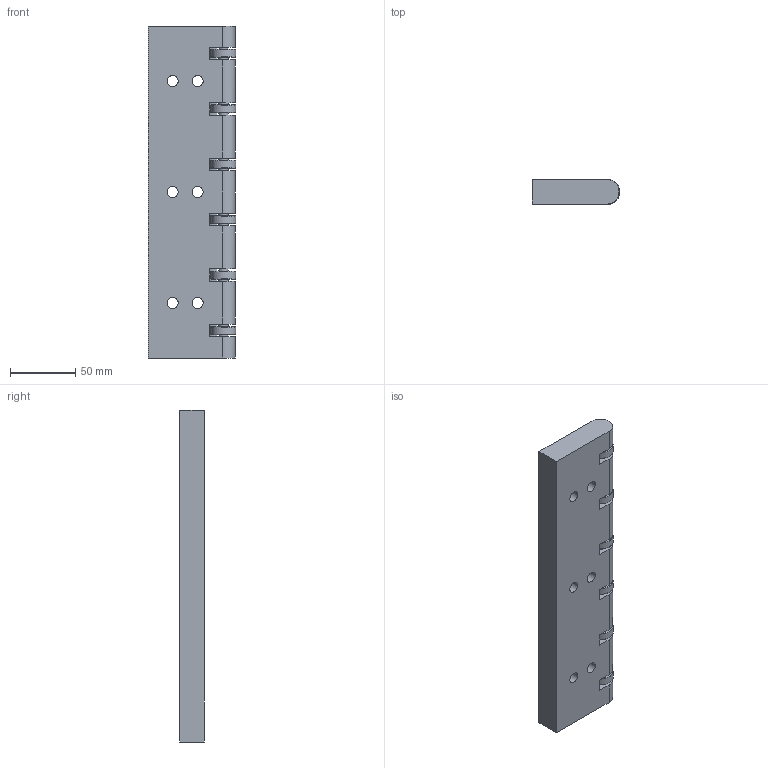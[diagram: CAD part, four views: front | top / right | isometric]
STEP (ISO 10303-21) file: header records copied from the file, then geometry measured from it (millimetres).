
FILE_DESCRIPTION(('CATIA V5 STEP Exchange'),'2;1');
FILE_NAME('S:\3D e 2D per Clienti\3D definitivi\Part 200\P22813_01.stp','2017-11-06T13:28:12+00:00',('none'),('none'),'Version 5-6 Release 2012','CATIA V5 STEP AP203','none');
FILE_SCHEMA(('CONFIG_CONTROL_DESIGN'));
Length unit declared in the file: millimetre
Products named in the file (1): 1
Bounding box: 67 x 19 x 254.4 mm (x, y, z)
Volume: 294560.6 mm3; surface area: 53516.9 mm2
Topology: 1 solids, 1 shells, 144 faces, 354 edges, 224 vertices
Faces by surface type: cylinder 73, plane 35, torus 24, cone 12
Entity records: 4298 total; most frequent: CARTESIAN_POINT 947, ORIENTED_EDGE 708, DIRECTION 579, EDGE_CURVE 354, AXIS2_PLACEMENT_3D 311, VERTEX_POINT 224, CIRCLE 189, EDGE_LOOP 180
